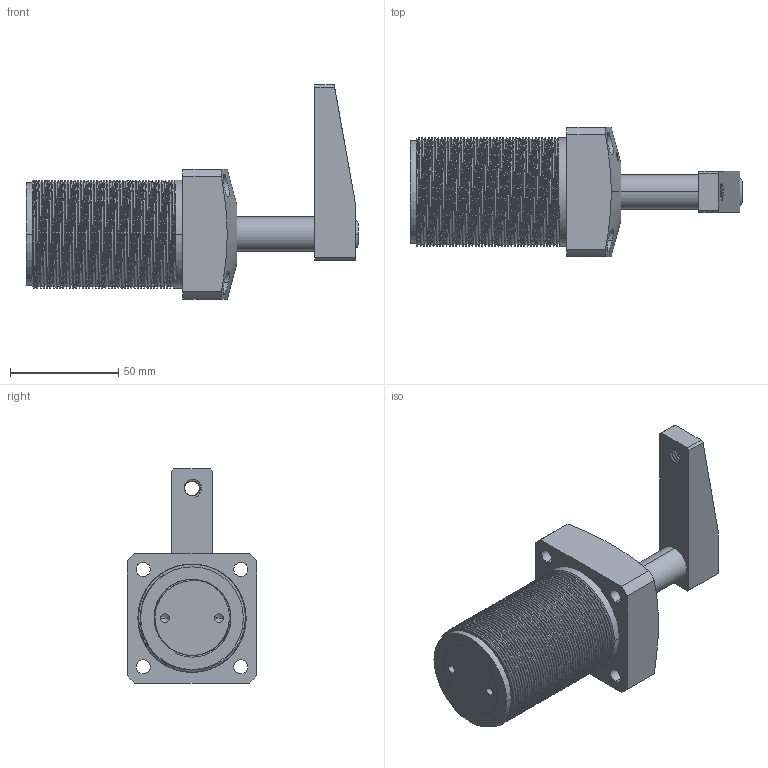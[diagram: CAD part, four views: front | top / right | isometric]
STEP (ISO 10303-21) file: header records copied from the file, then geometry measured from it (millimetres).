
FILE_DESCRIPTION((''),'2;1');
FILE_NAME('NPSU-32_ASM','2010-02-02T',('Administrator'),(''),'PRO/ENGINEER BY PARAMETRIC TECHNOLOGY CORPORATION, 2007170','PRO/ENGINEER BY PARAMETRIC TECHNOLOGY CORPORATION, 2007170','');
FILE_SCHEMA(('CONFIG_CONTROL_DESIGN'));
Length unit declared in the file: millimetre
Products named in the file (7): NPSU-32BT; NPSU-32HG; M4; NPSU-32YB; NPSU-32HSG; M8X20; NPSU-32_ASM
Assembly tree (7 placements, depth 2):
  NPSU-32_ASM
    NPSU-32BT
    NPSU-32HG
    M4  x2
    NPSU-32YB
    NPSU-32HSG
    M8X20
Bounding box: 153.5 x 60 x 99 mm (x, y, z)
Volume: 207165.9 mm3; surface area: 69432.2 mm2
Topology: 7 solids, 7 shells, 569 faces, 1519 edges, 980 vertices
Faces by surface type: cylinder 305, bspline 95, plane 86, cone 55, torus 28
Entity records: 48094 total; most frequent: CARTESIAN_POINT 36005, ORIENTED_EDGE 2852, DIRECTION 1878, EDGE_CURVE 1426, VERTEX_POINT 924, B_SPLINE_CURVE_WITH_KNOTS 701, AXIS2_PLACEMENT_3D 691, EDGE_LOOP 586
